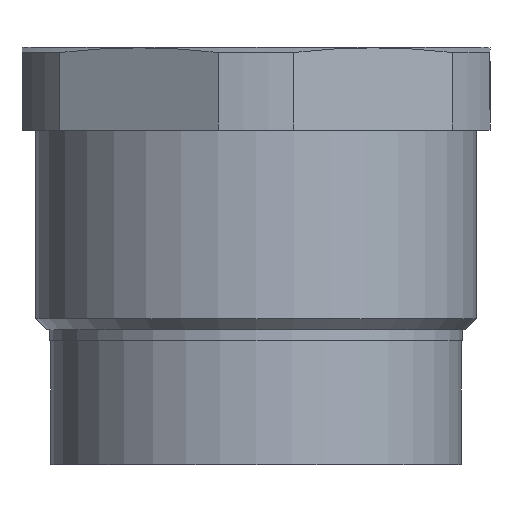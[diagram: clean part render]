
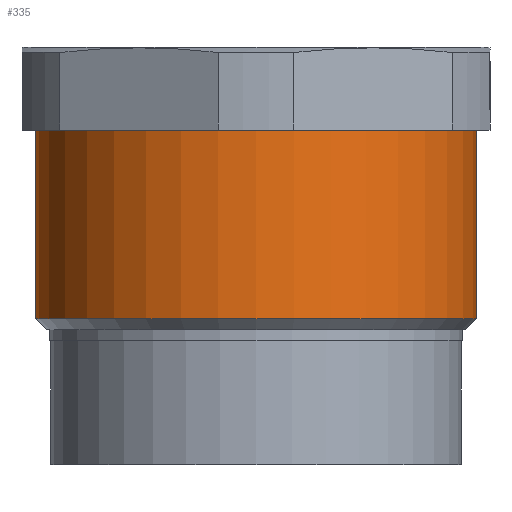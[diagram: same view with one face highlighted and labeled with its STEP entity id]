
A CAD part, front view. The second image highlights one B-rep face of the part: STEP entity #335.
In plain terms, the highlighted cylindrical face has radius 16 mm (diameter 32 mm), a partial arc.
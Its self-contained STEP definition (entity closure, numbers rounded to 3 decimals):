
#25 = VERTEX_POINT ( 'NONE', #1062 ) ;
#29 = EDGE_CURVE ( 'NONE', #122, #25, #1058, .T. ) ;
#90 = EDGE_CURVE ( 'NONE', #119, #207, #1187, .T. ) ;
#119 = VERTEX_POINT ( 'NONE', #1220 ) ;
#122 = VERTEX_POINT ( 'NONE', #1214 ) ;
#207 = VERTEX_POINT ( 'NONE', #1430 ) ;
#335 = ADVANCED_FACE ( 'NONE', ( #1671 ), #1670, .T. ) ;
#336 = EDGE_LOOP ( 'NONE', ( #353, #354, #356, #357 ) ) ;
#353 = ORIENTED_EDGE ( 'NONE', *, *, #90, .F. ) ;
#354 = ORIENTED_EDGE ( 'NONE', *, *, #355, .T. ) ;
#355 = EDGE_CURVE ( 'NONE', #119, #122, #1727, .T. ) ;
#356 = ORIENTED_EDGE ( 'NONE', *, *, #29, .T. ) ;
#357 = ORIENTED_EDGE ( 'NONE', *, *, #389, .F. ) ;
#389 = EDGE_CURVE ( 'NONE', #207, #25, #1784, .T. ) ;
#1055 = DIRECTION ( 'NONE',  ( 0., 0., 1. ) ) ;
#1056 = VECTOR ( 'NONE', #1055, 1000. ) ;
#1057 = CARTESIAN_POINT ( 'NONE',  ( 16., 0., 0. ) ) ;
#1058 = LINE ( 'NONE', #1057, #1056 ) ;
#1062 = CARTESIAN_POINT ( 'NONE',  ( 16., 0., -6. ) ) ;
#1187 = LINE ( 'NONE', #1246, #1245 ) ;
#1214 = CARTESIAN_POINT ( 'NONE',  ( 16., 0., -19.7 ) ) ;
#1220 = CARTESIAN_POINT ( 'NONE',  ( -16., 0., -19.7 ) ) ;
#1245 = VECTOR ( 'NONE', #1259, 1000. ) ;
#1246 = CARTESIAN_POINT ( 'NONE',  ( -16., 0., 0. ) ) ;
#1259 = DIRECTION ( 'NONE',  ( 0., 0., 1. ) ) ;
#1430 = CARTESIAN_POINT ( 'NONE',  ( -16., 0., -6. ) ) ;
#1667 = DIRECTION ( 'NONE',  ( 0., 0., 1. ) ) ;
#1668 = CARTESIAN_POINT ( 'NONE',  ( 0., 0., 0. ) ) ;
#1669 = AXIS2_PLACEMENT_3D ( 'NONE', #1668, #1667, #1676 ) ;
#1670 = CYLINDRICAL_SURFACE ( 'NONE', #1669, 16. ) ;
#1671 = FACE_OUTER_BOUND ( 'NONE', #336, .T. ) ;
#1676 = DIRECTION ( 'NONE',  ( 1., 0., 0. ) ) ;
#1695 = CARTESIAN_POINT ( 'NONE',  ( 0., 0., -19.7 ) ) ;
#1724 = DIRECTION ( 'NONE',  ( 1., 0., 0. ) ) ;
#1725 = DIRECTION ( 'NONE',  ( 0., 0., 1. ) ) ;
#1726 = AXIS2_PLACEMENT_3D ( 'NONE', #1695, #1725, #1724 ) ;
#1727 = CIRCLE ( 'NONE', #1726, 16. ) ;
#1783 = DIRECTION ( 'NONE',  ( 1., 0., 0. ) ) ;
#1784 = CIRCLE ( 'NONE', #1799, 16. ) ;
#1785 = CARTESIAN_POINT ( 'NONE',  ( 0., 0., -6. ) ) ;
#1799 = AXIS2_PLACEMENT_3D ( 'NONE', #1785, #1874, #1783 ) ;
#1874 = DIRECTION ( 'NONE',  ( 0., 0., 1. ) ) ;
